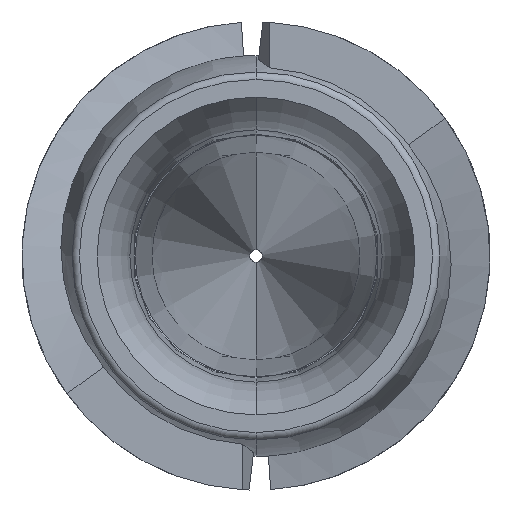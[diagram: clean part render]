
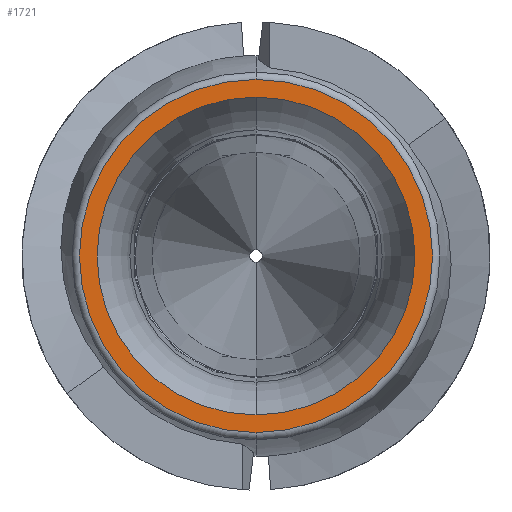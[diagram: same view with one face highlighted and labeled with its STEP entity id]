
A CAD part, front view. The second image highlights one B-rep face of the part: STEP entity #1721.
In plain terms, the highlighted planar face has unit normal (0, -1, 0).
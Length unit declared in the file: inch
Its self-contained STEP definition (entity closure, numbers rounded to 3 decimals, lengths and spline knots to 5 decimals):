
#29 = CIRCLE ( 'NONE', #1559, 0.10388 ) ;
#36 = EDGE_CURVE ( 'NONE', #880, #2079, #1338, .T. ) ;
#66 = AXIS2_PLACEMENT_3D ( 'NONE', #1282, #1087, #1263 ) ;
#190 = EDGE_LOOP ( 'NONE', ( #633, #1227 ) ) ;
#208 = AXIS2_PLACEMENT_3D ( 'NONE', #892, #1614, #579 ) ;
#285 = VERTEX_POINT ( 'NONE', #308 ) ;
#308 = CARTESIAN_POINT ( 'NONE',  ( 0., 0., -0.10388 ) ) ;
#374 = EDGE_CURVE ( 'NONE', #928, #285, #1049, .T. ) ;
#412 = DIRECTION ( 'NONE',  ( 0., 0., -1. ) ) ;
#490 = EDGE_LOOP ( 'NONE', ( #1110, #873 ) ) ;
#540 = DIRECTION ( 'NONE',  ( 0., 0., 1. ) ) ;
#579 = DIRECTION ( 'NONE',  ( 0., 0., 1. ) ) ;
#589 = CIRCLE ( 'NONE', #66, 0.11541 ) ;
#633 = ORIENTED_EDGE ( 'NONE', *, *, #731, .F. ) ;
#723 = CARTESIAN_POINT ( 'NONE',  ( 0., 0., -0.11541 ) ) ;
#731 = EDGE_CURVE ( 'NONE', #285, #928, #29, .T. ) ;
#803 = EDGE_CURVE ( 'NONE', #2079, #880, #589, .T. ) ;
#866 = PLANE ( 'NONE',  #1631 ) ;
#873 = ORIENTED_EDGE ( 'NONE', *, *, #36, .T. ) ;
#880 = VERTEX_POINT ( 'NONE', #723 ) ;
#892 = CARTESIAN_POINT ( 'NONE',  ( 0., 0., 0. ) ) ;
#904 = AXIS2_PLACEMENT_3D ( 'NONE', #1396, #2086, #412 ) ;
#928 = VERTEX_POINT ( 'NONE', #1581 ) ;
#1049 = CIRCLE ( 'NONE', #904, 0.10388 ) ;
#1087 = DIRECTION ( 'NONE',  ( 0., -1., 0. ) ) ;
#1110 = ORIENTED_EDGE ( 'NONE', *, *, #803, .T. ) ;
#1217 = DIRECTION ( 'NONE',  ( 0., 1., 0. ) ) ;
#1227 = ORIENTED_EDGE ( 'NONE', *, *, #374, .F. ) ;
#1256 = FACE_OUTER_BOUND ( 'NONE', #490, .T. ) ;
#1263 = DIRECTION ( 'NONE',  ( 0., 0., 1. ) ) ;
#1282 = CARTESIAN_POINT ( 'NONE',  ( 0., 0., 0. ) ) ;
#1338 = CIRCLE ( 'NONE', #208, 0.11541 ) ;
#1396 = CARTESIAN_POINT ( 'NONE',  ( 0., 0., 0. ) ) ;
#1559 = AXIS2_PLACEMENT_3D ( 'NONE', #2003, #1645, #2163 ) ;
#1581 = CARTESIAN_POINT ( 'NONE',  ( 0., 0., 0.10388 ) ) ;
#1614 = DIRECTION ( 'NONE',  ( 0., -1., 0. ) ) ;
#1631 = AXIS2_PLACEMENT_3D ( 'NONE', #2072, #1217, #540 ) ;
#1645 = DIRECTION ( 'NONE',  ( 0., -1., 0. ) ) ;
#1721 = ADVANCED_FACE ( 'NONE', ( #1256, #1724 ), #866, .F. ) ;
#1724 = FACE_BOUND ( 'NONE', #190, .T. ) ;
#2003 = CARTESIAN_POINT ( 'NONE',  ( 0., 0., 0. ) ) ;
#2072 = CARTESIAN_POINT ( 'NONE',  ( 0.11912, 0., 0. ) ) ;
#2079 = VERTEX_POINT ( 'NONE', #2112 ) ;
#2086 = DIRECTION ( 'NONE',  ( 0., -1., 0. ) ) ;
#2112 = CARTESIAN_POINT ( 'NONE',  ( 0., 0., 0.11541 ) ) ;
#2163 = DIRECTION ( 'NONE',  ( 0., 0., -1. ) ) ;
